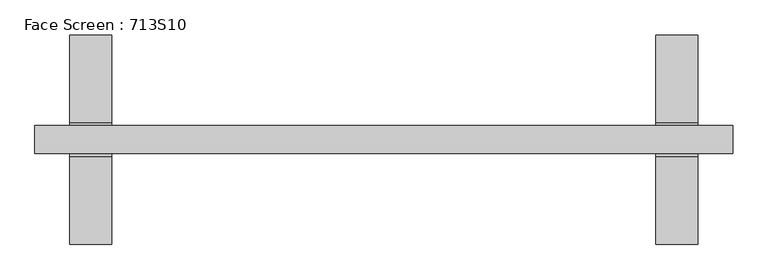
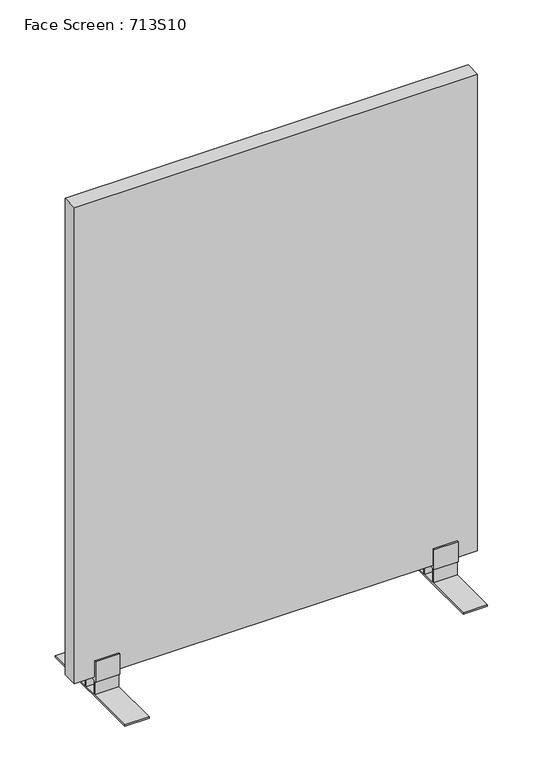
"""IFC4 building model written with IfcOpenShell, lengths in millimetres: furniture geometry, Face Screen : 713S10."""

from ifc_helpers import new_model, si_unit, frame, origin, place, context, project, spatial, polyline, outline, extrude, source, transform, mapped, element, save


def face_screen_713s10_a4a66952(model_context):
    return source(origin(), model_context, "Body", "SweptSolid", [
        extrude(outline(polyline([(-20.0, 4.0), (-20.0, 40.0), (-24.0, 40.0), (-24.0000047, 93.0166638), (-20.0, 93.0166638), (-20.0, 50.0955899), (20.0, 50.0955899), (20.0, 93.0166638), (24.0, 93.0166638), (23.9999953, 40.0), (20.0, 40.0), (20.0, 4.0), (149.9935713, 4.0), (149.9935713, 0.0), (-150.0064287, 0.0), (-150.0064287, 4.0), (-20.0, 4.0)]), holes=[polyline([(16.0, 40.0), (-16.0, 40.0), (-16.0, 4.0), (16.0, 4.0), (16.0, 40.0)])]), frame((390.0, 0.0, 0.0), z_axis=(1.0, 0.0, 0.0), x_axis=(0.0, 1.0, 0.0)), (0.0, 0.0, 1.0), 60.0),
        extrude(outline(polyline([(20.0, 4.0), (150.0064287, 4.0), (150.0064287, 0.0), (-149.9935713, 0.0), (-149.9935713, 4.0), (-20.0, 4.0), (-20.0, 40.0), (-23.9999953, 40.0), (-24.0, 93.0166638), (-20.0, 93.0166638), (-20.0, 50.0955899), (20.0, 50.0955899), (20.0, 93.0166638), (24.0000047, 93.0166638), (24.0, 40.0), (20.0, 40.0), (20.0, 4.0)]), holes=[polyline([(-16.0, 40.0), (-16.0, 4.0), (16.0, 4.0), (16.0, 40.0), (-16.0, 40.0)])]), frame((-450.0, 0.0, 0.0), z_axis=(1.0, 0.0, 0.0), x_axis=(0.0, 1.0, 0.0)), (0.0, 0.0, 1.0), 60.0),
        extrude(outline(polyline([(500.0, 20.0), (500.0, -20.0), (-500.0, -20.0), (-500.0, 20.0), (500.0, 20.0)])), frame((0.0, 0.0, 50.0), z_axis=(0.0, 0.0, 1.0), x_axis=(1.0, 0.0, 0.0)), (0.0, 0.0, 1.0), 1250.0),
    ])


if __name__ == "__main__":
    model = new_model("IFC4")
    model_context = context("Model", 3, world=origin())
    ifc_project = project(units=[si_unit("LENGTHUNIT", "METRE", prefix="MILLI")], contexts=[model_context])
    site = spatial("IfcSite", under=ifc_project)
    building = spatial("IfcBuilding", under=site)
    placement = place(None, origin())
    face_screen_713s10_shape = face_screen_713s10_a4a66952(model_context)
    element("IfcFurniture", 1, ObjectType="Face Screen : 713S10", at=placement, inside=building, context=model_context, shape_type="MappedRepresentation", body=[
        mapped(face_screen_713s10_shape, transform((0.0, 0.0, 0.0), x_axis=(1.0, 0.0, 0.0), y_axis=(0.0, 1.0, 0.0), z_axis=(0.0, 0.0, 1.0))),
    ])
    save(model, "model.ifc")
